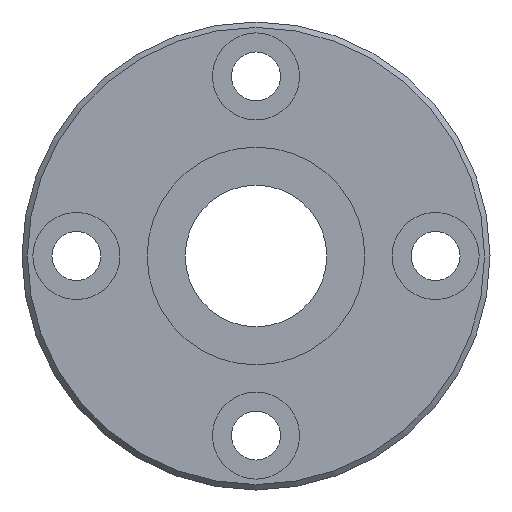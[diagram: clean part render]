
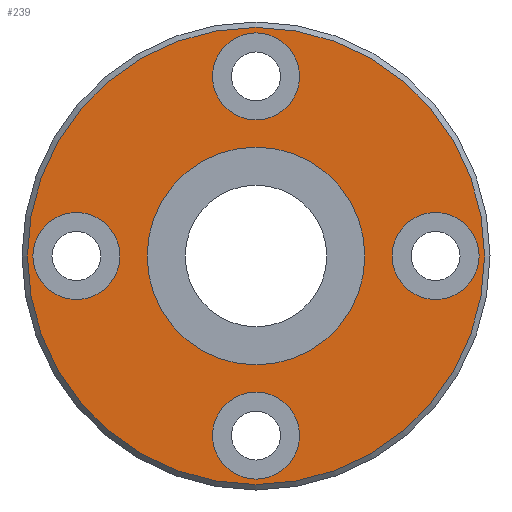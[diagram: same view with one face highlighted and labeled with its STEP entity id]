
A CAD part, left-side view. The second image highlights one B-rep face of the part: STEP entity #239.
In plain terms, the highlighted planar face has unit normal (-1, 0, 0).
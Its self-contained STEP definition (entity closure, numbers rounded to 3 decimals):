
#164=CARTESIAN_POINT('',(0.0,0.,21.0));
#165=VERTEX_POINT('',#164);
#166=CARTESIAN_POINT('',(0.0,0.0,0.0));
#167=DIRECTION('',(1.0,0.0,0.0));
#168=DIRECTION('',(0.0,0.0,-1.0));
#169=AXIS2_PLACEMENT_3D('',#166,#167,#168);
#170=CIRCLE('',#169,21.0);
#171=EDGE_CURVE('',#165,#165,#170,.T.);
#176=CARTESIAN_POINT('',(0.0,0.0,10.75));
#177=DIRECTION('',(-1.0,0.0,0.0));
#178=DIRECTION('',(0.0,0.0,1.0));
#179=AXIS2_PLACEMENT_3D('',#176,#177,#178);
#180=PLANE('',#179);
#181=ORIENTED_EDGE('',*,*,#171,.F.);
#182=EDGE_LOOP('',(#181));
#183=FACE_OUTER_BOUND('',#182,.T.);
#184=CARTESIAN_POINT('',(0.0,0.0,10.));
#185=VERTEX_POINT('',#184);
#186=CARTESIAN_POINT('',(0.0,0.0,0.0));
#187=DIRECTION('',(-1.0,0.0,0.0));
#188=DIRECTION('',(0.0,0.0,1.0));
#189=AXIS2_PLACEMENT_3D('',#186,#187,#188);
#190=CIRCLE('',#189,10.);
#191=EDGE_CURVE('',#185,#185,#190,.T.);
#192=ORIENTED_EDGE('',*,*,#191,.F.);
#193=EDGE_LOOP('',(#192));
#194=FACE_BOUND('',#193,.T.);
#195=CARTESIAN_POINT('',(0.0,20.5,0.));
#196=VERTEX_POINT('',#195);
#197=CARTESIAN_POINT('',(0.0,16.5,0.));
#198=DIRECTION('',(1.0,0.0,0.0));
#199=DIRECTION('',(0.0,1.0,0.0));
#200=AXIS2_PLACEMENT_3D('',#197,#198,#199);
#201=CIRCLE('',#200,4.0);
#202=EDGE_CURVE('',#196,#196,#201,.T.);
#203=ORIENTED_EDGE('',*,*,#202,.T.);
#204=EDGE_LOOP('',(#203));
#205=FACE_BOUND('',#204,.T.);
#206=CARTESIAN_POINT('',(0.0,-12.5,0.));
#207=VERTEX_POINT('',#206);
#208=CARTESIAN_POINT('',(0.0,-16.5,0.));
#209=DIRECTION('',(1.0,0.0,0.0));
#210=DIRECTION('',(0.0,1.0,0.0));
#211=AXIS2_PLACEMENT_3D('',#208,#209,#210);
#212=CIRCLE('',#211,4.0);
#213=EDGE_CURVE('',#207,#207,#212,.T.);
#214=ORIENTED_EDGE('',*,*,#213,.T.);
#215=EDGE_LOOP('',(#214));
#216=FACE_BOUND('',#215,.T.);
#217=CARTESIAN_POINT('',(0.0,4.,16.5));
#218=VERTEX_POINT('',#217);
#219=CARTESIAN_POINT('',(0.0,0.,16.5));
#220=DIRECTION('',(1.0,0.0,0.0));
#221=DIRECTION('',(0.0,1.0,0.0));
#222=AXIS2_PLACEMENT_3D('',#219,#220,#221);
#223=CIRCLE('',#222,4.0);
#224=EDGE_CURVE('',#218,#218,#223,.T.);
#225=ORIENTED_EDGE('',*,*,#224,.T.);
#226=EDGE_LOOP('',(#225));
#227=FACE_BOUND('',#226,.T.);
#228=CARTESIAN_POINT('',(0.0,4.,-16.5));
#229=VERTEX_POINT('',#228);
#230=CARTESIAN_POINT('',(0.0,0.,-16.5));
#231=DIRECTION('',(1.0,0.0,0.0));
#232=DIRECTION('',(0.0,1.0,0.0));
#233=AXIS2_PLACEMENT_3D('',#230,#231,#232);
#234=CIRCLE('',#233,4.0);
#235=EDGE_CURVE('',#229,#229,#234,.T.);
#236=ORIENTED_EDGE('',*,*,#235,.T.);
#237=EDGE_LOOP('',(#236));
#238=FACE_BOUND('',#237,.T.);
#239=ADVANCED_FACE('',(#183,#194,#205,#216,#227,#238),#180,.T.);
